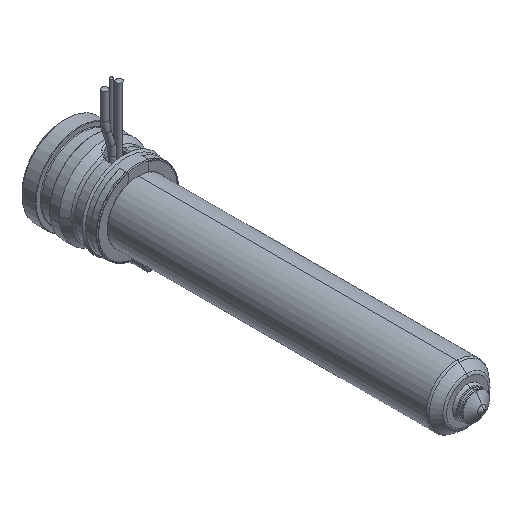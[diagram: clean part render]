
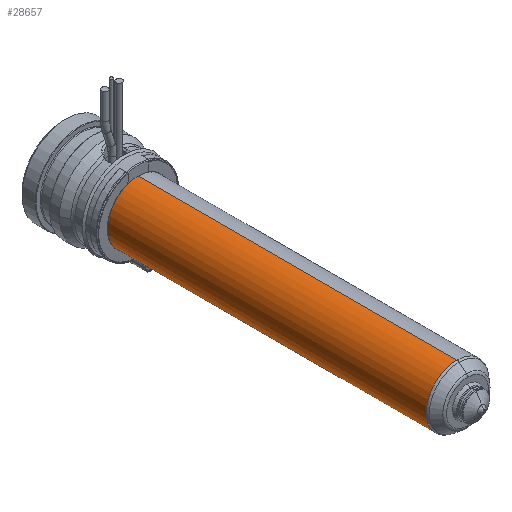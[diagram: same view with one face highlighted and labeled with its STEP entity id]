
A CAD part, isometric view. The second image highlights one B-rep face of the part: STEP entity #28657.
In plain terms, the highlighted cylindrical face has radius 9 mm (diameter 18 mm), a partial arc.
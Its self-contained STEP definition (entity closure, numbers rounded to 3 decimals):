
#28061=CARTESIAN_POINT('',(0.,-115.836,0.));
#28062=DIRECTION('',(0.,-1.,0.));
#28063=DIRECTION('',(0.,0.,1.));
#28064=AXIS2_PLACEMENT_3D('',#28061,#28062,#28063);
#28066=CARTESIAN_POINT('',(0.,-22.,0.));
#28067=DIRECTION('',(0.,1.,0.));
#28068=DIRECTION('',(0.,0.,-1.));
#28069=AXIS2_PLACEMENT_3D('',#28066,#28067,#28068);
#28071=DIRECTION('',(0.,1.,0.));
#28072=VECTOR('',#28071,93.836);
#28073=CARTESIAN_POINT('',(0.,-115.836,9.));
#28074=LINE('',#28073,#28072);
#28080=DIRECTION('',(0.,1.,0.));
#28081=VECTOR('',#28080,93.836);
#28082=CARTESIAN_POINT('',(0.,-115.836,-9.));
#28083=LINE('',#28082,#28081);
#28200=CARTESIAN_POINT('',(0.,-115.836,9.));
#28201=CARTESIAN_POINT('',(0.,-22.,9.));
#28202=VERTEX_POINT('',#28200);
#28203=VERTEX_POINT('',#28201);
#28204=CARTESIAN_POINT('',(0.,-115.836,-9.));
#28205=CARTESIAN_POINT('',(0.,-22.,-9.));
#28206=VERTEX_POINT('',#28204);
#28207=VERTEX_POINT('',#28205);
#28643=CARTESIAN_POINT('',(0.,-12.7,0.));
#28644=DIRECTION('',(0.,-1.,0.));
#28645=DIRECTION('',(0.,0.,1.));
#28646=AXIS2_PLACEMENT_3D('',#28643,#28644,#28645);
#28647=CYLINDRICAL_SURFACE('',#28646,9.);
#28649=ORIENTED_EDGE('',*,*,#28648,.F.);
#28650=ORIENTED_EDGE('',*,*,#28631,.T.);
#28652=ORIENTED_EDGE('',*,*,#28651,.T.);
#28654=ORIENTED_EDGE('',*,*,#28653,.T.);
#28655=EDGE_LOOP('',(#28649,#28650,#28652,#28654));
#28656=FACE_OUTER_BOUND('',#28655,.F.);
#28657=ADVANCED_FACE('',(#28656),#28647,.T.);
#28065=CIRCLE('',#28064,9.);
#28070=CIRCLE('',#28069,9.);
#28631=EDGE_CURVE('',#28202,#28206,#28065,.T.);
#28648=EDGE_CURVE('',#28202,#28203,#28074,.T.);
#28651=EDGE_CURVE('',#28206,#28207,#28083,.T.);
#28653=EDGE_CURVE('',#28207,#28203,#28070,.T.);
